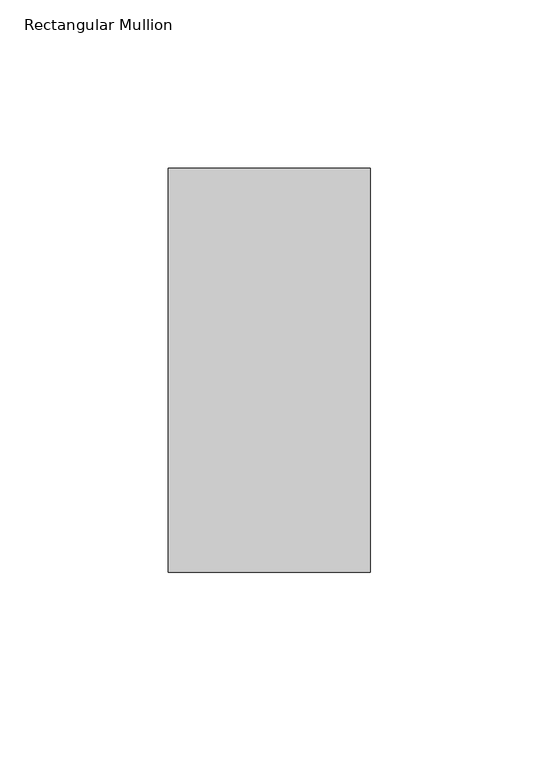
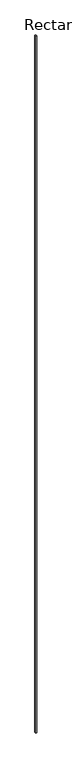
"""IFC4 building model written with IfcOpenShell, lengths in millimetres: member geometry, Rectangular Mullion : Terça."""

from ifc_helpers import new_model, si_unit, frame, origin, place, context, project, spatial, polyline, outline, extrude, source, transform, mapped, element, save


def rectangular_mullion_215ae39a(model_context):
    return source(origin(), model_context, "Body", "SweptSolid", [
        extrude(outline(polyline([(30.0, -120.0), (-30.0, -120.0), (-30.0, 0.0), (30.0, 0.0), (30.0, -120.0)])), frame((0.0, 0.0, -46920.4270994), z_axis=(0.0, 0.0, 1.0), x_axis=(1.0, 0.0, 0.0)), (0.0, 0.0, 1.0), 46920.4270994),
    ])


if __name__ == "__main__":
    model = new_model("IFC4")
    model_context = context("Model", 3, world=origin())
    ifc_project = project(units=[si_unit("LENGTHUNIT", "METRE", prefix="MILLI")], contexts=[model_context])
    site = spatial("IfcSite", under=ifc_project)
    building = spatial("IfcBuilding", under=site)
    placement = place(None, origin())
    rectangular_mullion_shape = rectangular_mullion_215ae39a(model_context)
    element("IfcMember", 1, ObjectType="Rectangular Mullion : Terça", at=placement, inside=building, context=model_context, shape_type="MappedRepresentation", body=[
        mapped(rectangular_mullion_shape, transform((0.0, 0.0, 0.0), x_axis=(1.0, 0.0, 0.0), y_axis=(0.0, 1.0, 0.0), z_axis=(0.0, 0.0, 1.0))),
    ])
    save(model, "model.ifc")
